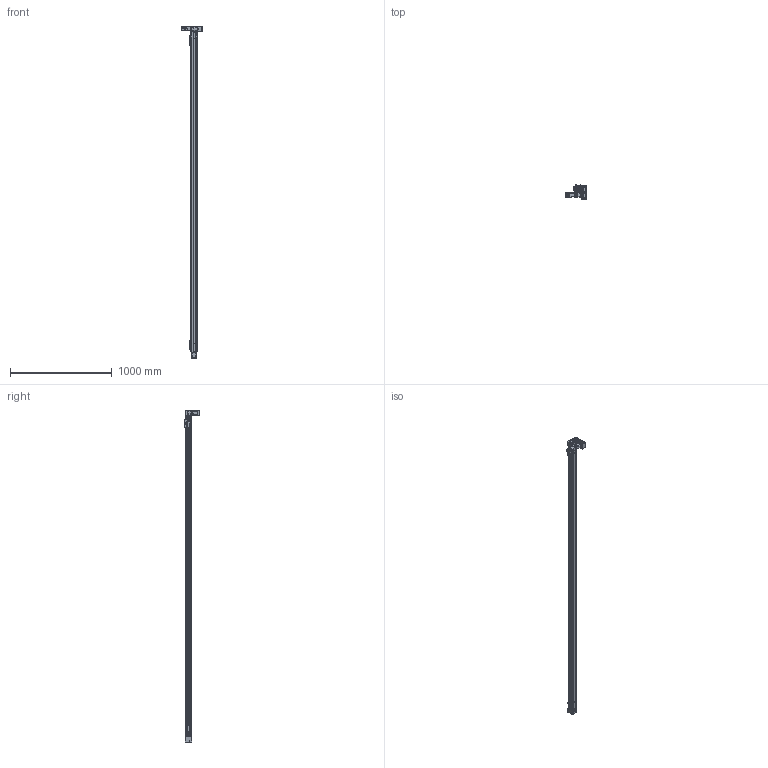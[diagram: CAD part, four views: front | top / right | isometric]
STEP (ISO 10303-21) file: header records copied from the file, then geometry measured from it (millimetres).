
FILE_DESCRIPTION(/* description */ (''),/* implementation_level */ '2;1');
FILE_NAME(/* name */ '\\192.168.0.160\disk1\HAN SHIN Master\B-설계부문\C-표준\B-2024년\BC02-표준도면\+로봇 개선표준도면\홈페이지 표준 도면\홈페이지 최종 작업 폴더\3D\HSB\HSB55\HSB55-DR1G-N-3000-L.stp',/* time_stamp */ '2025-06-19T20:13:39+09:00',/* author */ ('user'),/* organization */ (''),/* preprocessor_version */ 'ST-DEVELOPER v18.1',/* originating_system */ 'Autodesk Inventor 2022',/* authorisation */ '');
FILE_SCHEMA (('AUTOMOTIVE_DESIGN { 1 0 10303 214 3 1 1 }'));
Products named in the file (42): HSB55-DR1G-N-0500-L; HSB55 BASE; HSB55 TABLE; UPCOVER; HSB55 HOUSING (Connecting); HSB55 FRONT HOUSIONG; HSB55 REAR SHAFT-1; HSB55 REAR SHAFT; HSB55 DOWN CLAMP; M4-25(렌치볼트); HSB55 HOUSING-R1; HSB55 TENSION PLATE; ISO 4032 - M4; HSB55 UP CLAMP; M4-12(렌치볼트); SIDE COVER_대칭도; SIDE COVER; HR45 STOPPER; HSB55 ACRYL COVER-R1; HSB55 ACRYL COVER; HSB160 BEARING OVER; HSB55 END COVER; HSB160 SHAFT-1; EC-6202ZZ; EC-6202ZZ Inner ring; EC-6202ZZ Outer ring; EC-6202ZZ St; EC-6202ZZ Ball; EC-6202ZZ B1; HR45 SENSOR DOG; hsr_ftht_A-M6F_grease_nipple_joint; NIPPLE CAP(신규); HR45 SENSOR RAIL; EE_SX674A; PGX44-H-1_3; hg-kr13_; MOTOR PLATE-100W(MITSUBISHI); HSB55 D BELT COVER; HR65-BELT COVER-COVER; HR65-BELT COVER-COVER3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
Assembly tree (64 placements, depth 3):
  HSB55-DR1G-N-0500-L
    HSB55 BASE
    HSB55 TABLE
    UPCOVER
    HSB55 FRONT HOUSIONG  x2
    HSB55 HOUSING (Connecting)
    HSB55 REAR SHAFT-1
    #133696  x2
    HSB55 REAR SHAFT
    HSB55 DOWN CLAMP  x2
    HSB55 UP CLAMP  x2
    M4-25(렌치볼트)
    ISO 4032 - M4  x2
    HSB55 HOUSING-R1
    HSB55 TENSION PLATE  x2
    M4-12(렌치볼트)
    SIDE COVER_대칭도
    SIDE COVER
    HR45 STOPPER  x2
    HSB55 ACRYL COVER  x4
    HSB55 ACRYL COVER-R1
    HSB160 BEARING OVER
    HSB55 END COVER
    HSB160 SHAFT-1
    EC-6202ZZ  x2
      EC-6202ZZ Inner ring
      EC-6202ZZ Outer ring
      EC-6202ZZ B1
      EC-6202ZZ St
      EC-6202ZZ Ball
    HR45 SENSOR DOG
    EE_SX674A  x3
    HR45 SENSOR RAIL  x2
    hsr_ftht_A-M6F_grease_nipple_joint
    NIPPLE CAP(신규)
    PGX44-H-1_3
    hg-kr13_
    MOTOR PLATE-100W(MITSUBISHI)
    HSB55 D BELT COVER
    HR65-BELT COVER-COVER
    HR65-BELT COVER-COVER3
    HSB55 D MOTOR PLATE
    HR65-BELT COVER-COVER2
Bounding box: 201.4 x 142.7 x 3267 mm (x, y, z)
Volume: 4997992.7 mm3; surface area: 2259439.9 mm2
Topology: 90 solids, 90 shells, 5267 faces, 14467 edges, 9466 vertices
Faces by surface type: plane 3649, cylinder 1253, cone 286, torus 35, sphere 22, bspline 22
Full cylindrical faces by diameter (mm): 1 x2, 2 x3, 2.013 x4, 2.459 x102, 2.5 x5, 3 x3, 3.242 x78, 3.3 x9, 3.4 x16, 3.5 x75, 4 x12, 4.134 x22, 4.2 x4, 4.5 x45, 4.917 x2, 5 x8, 5.5 x1, 5.6 x3, 5.9 x2, 6 x46, 6.5 x4, 7 x6, 7.5 x4, 8 x19, 8.2 x1, 9 x2, 9.5 x2, 10 x1, 11.5 x2, 12 x6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
Entity records: 133654 total; most frequent: CARTESIAN_POINT 27072, ORIENTED_EDGE 21886, DIRECTION 21514, EDGE_CURVE 10943, LINE 7700, VECTOR 7700, VERTEX_POINT 7200, AXIS2_PLACEMENT_3D 6907
